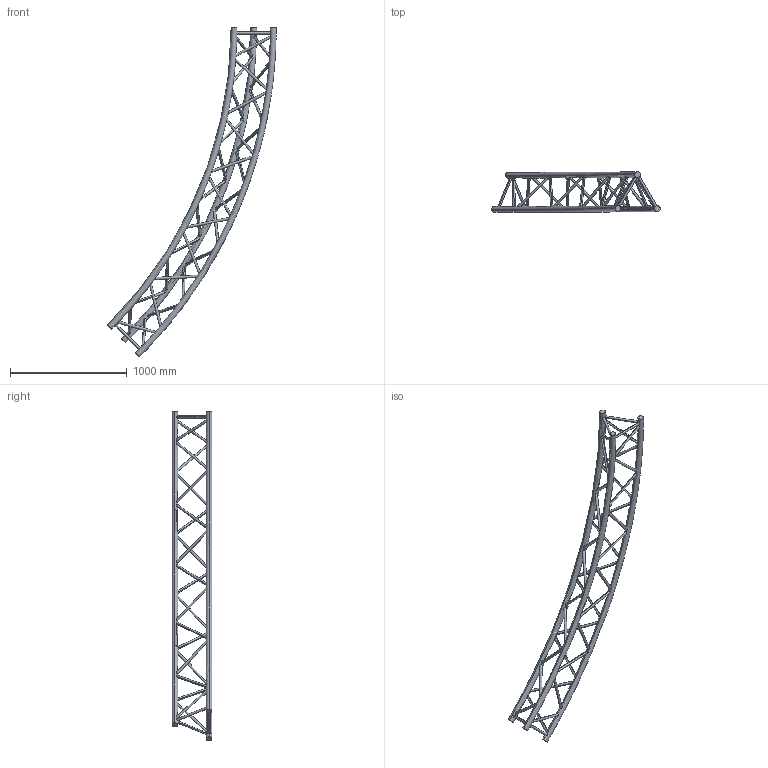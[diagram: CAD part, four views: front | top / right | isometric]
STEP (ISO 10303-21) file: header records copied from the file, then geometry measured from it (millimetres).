
FILE_DESCRIPTION (( 'STEP AP203' ), '1' );
FILE_NAME ('SXC39800PH.STEP', '2009-10-21T11:28:52', ( 'CEDIA' ), ( 'CEDIA INDUSTRIE' ), 'SwSTEP 2.0', 'SolidWorks 2009', '' );
FILE_SCHEMA (( 'CONFIG_CONTROL_DESIGN' ));
Length unit declared in the file: millimetre
Products named in the file (1): SXC39800PH
Bounding box: 1445.22 x 341.85 x 2828.43 mm (x, y, z)
Volume: 21876683.1 mm3; surface area: 2246952.8 mm2
Topology: 1 solids, 1 shells, 90 faces, 278 edges, 168 vertices
Faces by surface type: cylinder 78, torus 6, plane 6
Entity records: 10573 total; most frequent: CARTESIAN_POINT 8187, ORIENTED_EDGE 556, DIRECTION 348, EDGE_CURVE 278, VERTEX_POINT 168, B_SPLINE_CURVE_WITH_KNOTS 156, EDGE_LOOP 142, AXIS2_PLACEMENT_3D 135
